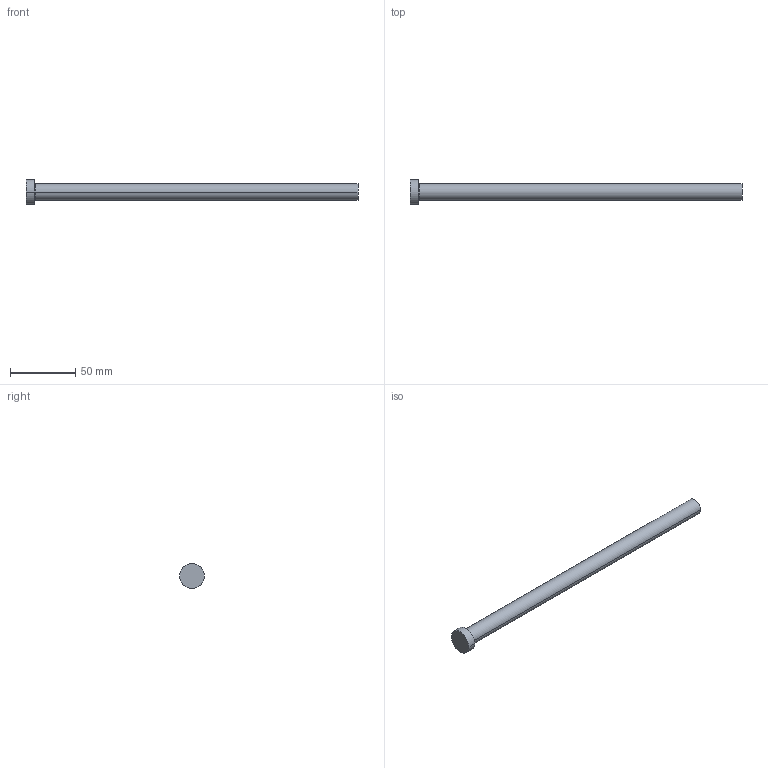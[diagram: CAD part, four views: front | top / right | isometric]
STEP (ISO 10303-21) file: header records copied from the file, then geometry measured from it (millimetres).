
FILE_DESCRIPTION (( 'STEP AP214' ), '1' );
FILE_NAME ('P33-10.STEP', '2020-03-12T10:58:50', ( '' ), ( '' ), 'SwSTEP 2.0', 'SolidWorks 2018', '' );
FILE_SCHEMA (( 'AUTOMOTIVE_DESIGN' ));
Length unit declared in the file: inch
Products named in the file (1): P33-10
Bounding box: 254 x 19.05 x 19.05 mm (x, y, z)
Volume: 33148.3 mm3; surface area: 10805 mm2
Topology: 1 solids, 1 shells, 13 faces, 24 edges, 14 vertices
Faces by surface type: cone 4, cylinder 4, plane 3, torus 2
Entity records: 366 total; most frequent: DIRECTION 68, CARTESIAN_POINT 52, ORIENTED_EDGE 48, AXIS2_PLACEMENT_3D 30, EDGE_CURVE 24, CIRCLE 16, VERTEX_POINT 14, EDGE_LOOP 14
